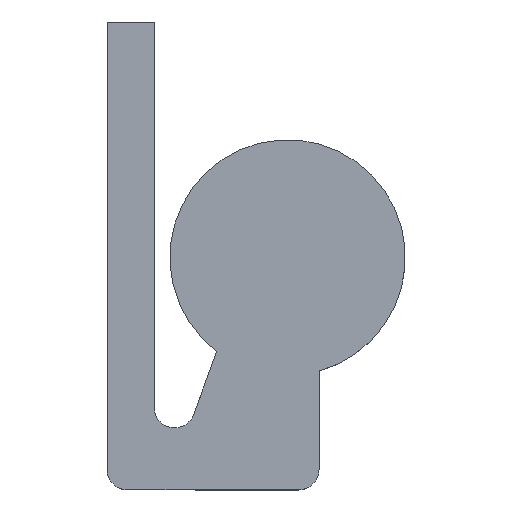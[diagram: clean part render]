
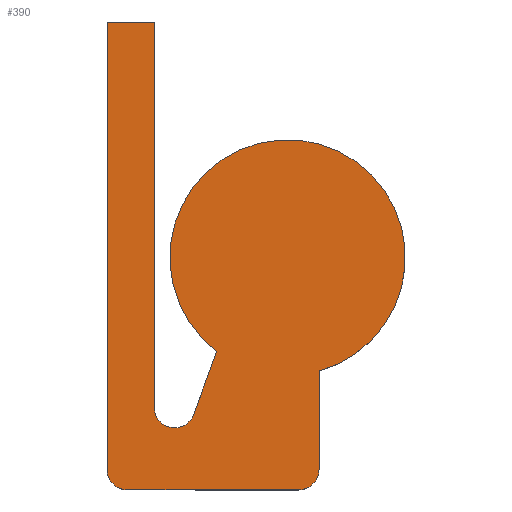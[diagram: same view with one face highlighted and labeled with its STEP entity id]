
A CAD part, top view. The second image highlights one B-rep face of the part: STEP entity #390.
In plain terms, the highlighted planar face has unit normal (0, 0, 1).
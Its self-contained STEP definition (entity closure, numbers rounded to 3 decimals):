
#390 = ADVANCED_FACE( '', ( #822 ), #823, .F. );
#822 = FACE_OUTER_BOUND( '', #1256, .T. );
#823 = PLANE( '', #1257 );
#1256 = EDGE_LOOP( '', ( #2060, #2061, #2062, #2063, #2064, #2065, #2066, #2067, #2068, #2069, #2070 ) );
#1257 = AXIS2_PLACEMENT_3D( '', #2071, #2072, #2073 );
#2060 = ORIENTED_EDGE( '', *, *, #2205, .F. );
#2061 = ORIENTED_EDGE( '', *, *, #2195, .F. );
#2062 = ORIENTED_EDGE( '', *, *, #2260, .F. );
#2063 = ORIENTED_EDGE( '', *, *, #2097, .F. );
#2064 = ORIENTED_EDGE( '', *, *, #2375, .F. );
#2065 = ORIENTED_EDGE( '', *, *, #2343, .F. );
#2066 = ORIENTED_EDGE( '', *, *, #2315, .F. );
#2067 = ORIENTED_EDGE( '', *, *, #2336, .F. );
#2068 = ORIENTED_EDGE( '', *, *, #2172, .F. );
#2069 = ORIENTED_EDGE( '', *, *, #2169, .T. );
#2070 = ORIENTED_EDGE( '', *, *, #2141, .F. );
#2071 = CARTESIAN_POINT( '', ( -150., 150., 0. ) );
#2072 = DIRECTION( '', ( 0., 0., -1. ) );
#2073 = DIRECTION( '', ( 0., 1., 0. ) );
#2097 = EDGE_CURVE( '', #2402, #2403, #2404, .T. );
#2141 = EDGE_CURVE( '', #2480, #2482, #2483, .T. );
#2169 = EDGE_CURVE( '', #2529, #2482, #2530, .T. );
#2172 = EDGE_CURVE( '', #2529, #2533, #2534, .T. );
#2195 = EDGE_CURVE( '', #2568, #2570, #2571, .T. );
#2205 = EDGE_CURVE( '', #2570, #2480, #2585, .T. );
#2260 = EDGE_CURVE( '', #2403, #2568, #2666, .T. );
#2315 = EDGE_CURVE( '', #2741, #2743, #2744, .T. );
#2336 = EDGE_CURVE( '', #2533, #2741, #2773, .F. );
#2343 = EDGE_CURVE( '', #2743, #2782, #2783, .T. );
#2375 = EDGE_CURVE( '', #2782, #2402, #2819, .F. );
#2402 = VERTEX_POINT( '', #2849 );
#2403 = VERTEX_POINT( '', #2850 );
#2404 = LINE( '', #2851, #2852 );
#2480 = VERTEX_POINT( '', #3194 );
#2482 = VERTEX_POINT( '', #3197 );
#2483 = LINE( '', #3198, #3199 );
#2529 = VERTEX_POINT( '', #3258 );
#2530 = CIRCLE( '', #3259, 75. );
#2533 = VERTEX_POINT( '', #3263 );
#2534 = LINE( '', #3264, #3265 );
#2568 = VERTEX_POINT( '', #3305 );
#2570 = VERTEX_POINT( '', #3308 );
#2571 = LINE( '', #3309, #3310 );
#2585 = CIRCLE( '', #3328, 13. );
#2666 = LINE( '', #3462, #3463 );
#2741 = VERTEX_POINT( '', #3701 );
#2743 = VERTEX_POINT( '', #3704 );
#2744 = LINE( '', #3705, #3706 );
#2773 = CIRCLE( '', #3737, 13. );
#2782 = VERTEX_POINT( '', #3746 );
#2783 = LINE( '', #3747, #3748 );
#2819 = CIRCLE( '', #3791, 13. );
#2849 = CARTESIAN_POINT( '', ( -115., -135., 0. ) );
#2850 = CARTESIAN_POINT( '', ( -115., 150., 0. ) );
#2851 = CARTESIAN_POINT( '', ( -115., -150., 0. ) );
#2852 = VECTOR( '', #3818, 1000. );
#3194 = CARTESIAN_POINT( '', ( -59.784, -99.931, 0. ) );
#3197 = CARTESIAN_POINT( '', ( -45.196, -59.852, 0. ) );
#3198 = CARTESIAN_POINT( '', ( -86.429, -173.138, 0. ) );
#3199 = VECTOR( '', #3852, 1000. );
#3258 = CARTESIAN_POINT( '', ( 20., -72.284, 0. ) );
#3259 = AXIS2_PLACEMENT_3D( '', #3890, #3891, #3892 );
#3263 = CARTESIAN_POINT( '', ( 20., -135., 0. ) );
#3264 = CARTESIAN_POINT( '', ( 20., -150., 0. ) );
#3265 = VECTOR( '', #3894, 1000. );
#3305 = CARTESIAN_POINT( '', ( -85., 150., 0. ) );
#3308 = CARTESIAN_POINT( '', ( -85., -95.485, 0. ) );
#3309 = CARTESIAN_POINT( '', ( -85., -150., 0. ) );
#3310 = VECTOR( '', #3929, 1000. );
#3328 = AXIS2_PLACEMENT_3D( '', #3940, #3941, #3942 );
#3462 = CARTESIAN_POINT( '', ( -150., 150., 0. ) );
#3463 = VECTOR( '', #4017, 1000. );
#3701 = CARTESIAN_POINT( '', ( 7., -148., 0. ) );
#3704 = CARTESIAN_POINT( '', ( -58.714, -148., 0. ) );
#3705 = CARTESIAN_POINT( '', ( -150., -148., 0. ) );
#3706 = VECTOR( '', #4071, 1000. );
#3737 = AXIS2_PLACEMENT_3D( '', #4098, #4099, #4100 );
#3746 = CARTESIAN_POINT( '', ( -102., -148., 0. ) );
#3747 = CARTESIAN_POINT( '', ( -150., -148., 0. ) );
#3748 = VECTOR( '', #4107, 1000. );
#3791 = AXIS2_PLACEMENT_3D( '', #4124, #4125, #4126 );
#3818 = DIRECTION( '', ( 0., 1., 0. ) );
#3852 = DIRECTION( '', ( 0.342, 0.94, 0. ) );
#3890 = CARTESIAN_POINT( '', ( 0., 0., 0. ) );
#3891 = DIRECTION( '', ( 0., 0., 1. ) );
#3892 = DIRECTION( '', ( 1., 0., 0. ) );
#3894 = DIRECTION( '', ( 0., -1., 0. ) );
#3929 = DIRECTION( '', ( 0., -1., 0. ) );
#3940 = CARTESIAN_POINT( '', ( -72., -95.485, 0. ) );
#3941 = DIRECTION( '', ( 0., 0., 1. ) );
#3942 = DIRECTION( '', ( 1., 0., 0. ) );
#4017 = DIRECTION( '', ( 1., 0., 0. ) );
#4071 = DIRECTION( '', ( -1., 0., 0. ) );
#4098 = CARTESIAN_POINT( '', ( 7., -135., 0. ) );
#4099 = DIRECTION( '', ( 0., 0., 1. ) );
#4100 = DIRECTION( '', ( 1., 0., 0. ) );
#4107 = DIRECTION( '', ( -1., 0., 0. ) );
#4124 = CARTESIAN_POINT( '', ( -102., -135., 0. ) );
#4125 = DIRECTION( '', ( 0., 0., 1. ) );
#4126 = DIRECTION( '', ( 1., 0., 0. ) );
